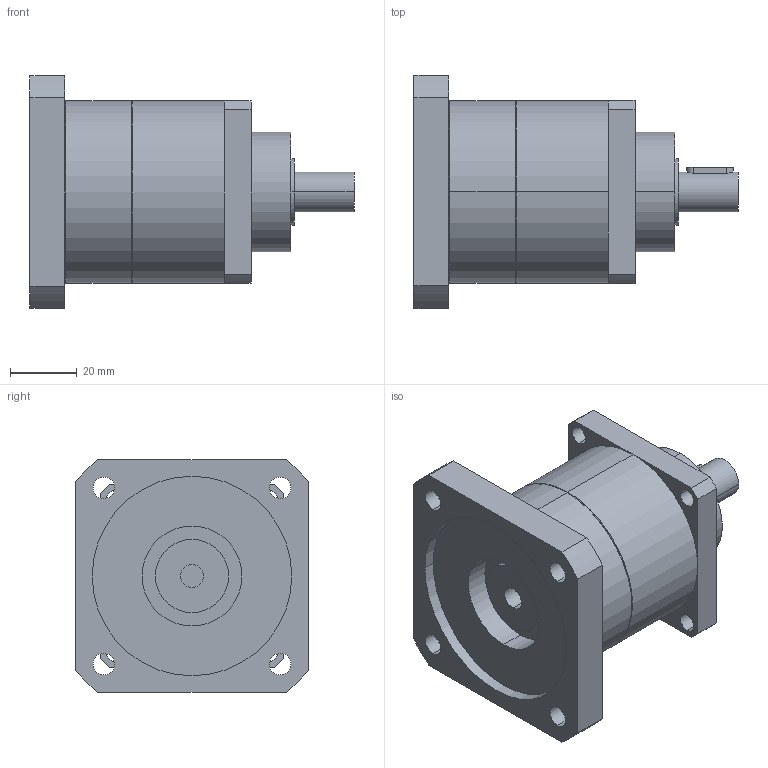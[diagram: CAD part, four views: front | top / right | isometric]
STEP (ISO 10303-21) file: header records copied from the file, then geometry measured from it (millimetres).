
FILE_DESCRIPTION(('CoCreate Modeling STEP Export'),'2;1');
FILE_NAME('GPT55_ig-3-4-5-7-10_12_B5A_7_P04.stp','2014-08-25T14:33:22',(''),(''),'CoCreate Modeling STEP processor for AP214 (Solid Model)','CoCreate Modeling 16.00C 25-Feb-2009 (C) Parametric Technology GmbH','');
FILE_SCHEMA(('AUTOMOTIVE_DESIGN { 1 0 10303 214 1 1 1 1 }'));
Length unit declared in the file: millimetre
Products named in the file (2): GPT55_ig-3-4-5-7-10_12_B5A_7_P04
Assembly tree (1 placements, depth 2):
  GPT55_ig-3-4-5-7-10_12_B5A_7_P04
    GPT55_ig-3-4-5-7-10_12_B5A_7_P04
Bounding box: 97.5 x 70 x 70 mm (x, y, z)
Volume: 186458.1 mm3; surface area: 29093.5 mm2
Topology: 1 solids, 1 shells, 77 faces, 197 edges, 132 vertices
Faces by surface type: cylinder 46, plane 27, cone 4
Entity records: 2480 total; most frequent: CARTESIAN_POINT 703, ORIENTED_EDGE 394, DIRECTION 318, EDGE_CURVE 197, VERTEX_POINT 132, AXIS2_PLACEMENT_3D 117, EDGE_LOOP 103, VECTOR 84
